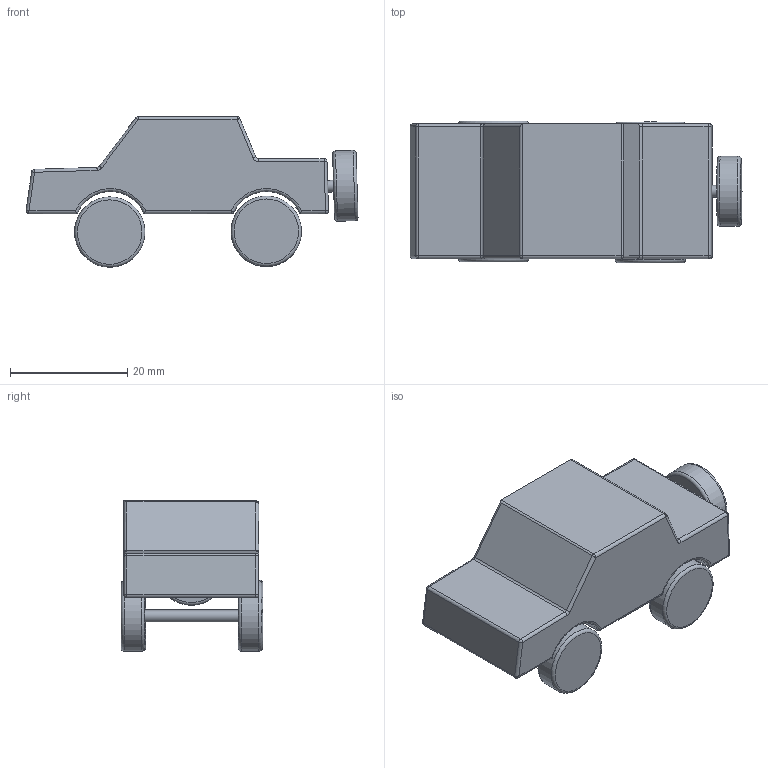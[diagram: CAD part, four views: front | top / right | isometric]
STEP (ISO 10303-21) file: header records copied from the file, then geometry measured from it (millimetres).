
FILE_DESCRIPTION(('HOOPS Exchange Step'),'2;1');
FILE_NAME('E:\MODELS\[01] CAD_DATA\toycar_assy.stp','2024-11-25T13:20:40+09:00',('dgkan'),('Unknown organisation'),'HOOPS Exchange 2024.7','HOOPS Exchange','Unknown authorisation');
FILE_SCHEMA( ('AP203_CONFIGURATION_CONTROLLED_3D_DESIGN_OF_MECHANICAL_PARTS_AND_ASSEMBLIES_MIM_LF') );
Length unit declared in the file: millimetre
Products named in the file (6): toycar_wheel  refset MODEL; toycar_axle  refset MODEL; toycar_axle_assy  refset MODEL; toycar_body  refset MODEL; toycar_assy
Assembly tree (10 placements, depth 3):
  toycar_assy
    toycar_wheel  refset MODEL
    toycar_axle_assy  refset MODEL
      toycar_axle  refset MODEL
      toycar_wheel  refset MODEL  x2
    toycar_axle_assy  refset MODEL
      toycar_axle  refset MODEL
      toycar_wheel  refset MODEL  x2
    toycar_body  refset MODEL
Bounding box: 56.63 x 24.19 x 25.67 mm (x, y, z)
Volume: 14993.8 mm3; surface area: 6323.5 mm2
Topology: 8 solids, 8 shells, 104 faces, 208 edges, 117 vertices
Faces by surface type: cylinder 43, plane 32, torus 18, sphere 11
Full cylindrical faces by diameter (mm): 2 x8, 12 x5
Entity records: 4722 total; most frequent: CARTESIAN_POINT 1938, DIRECTION 392, DEFINITIONAL_REPRESENTATION 302, PCURVE 302, ORIENTED_EDGE 302, B_SPLINE_CURVE_WITH_KNOTS 289, AXIS2_PLACEMENT_3D 164, INTERSECTION_CURVE 151
